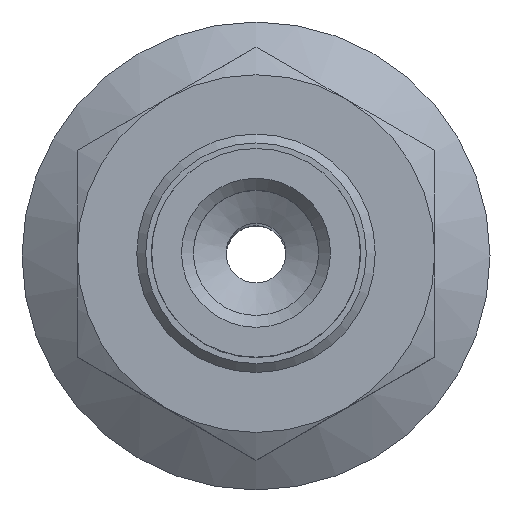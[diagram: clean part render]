
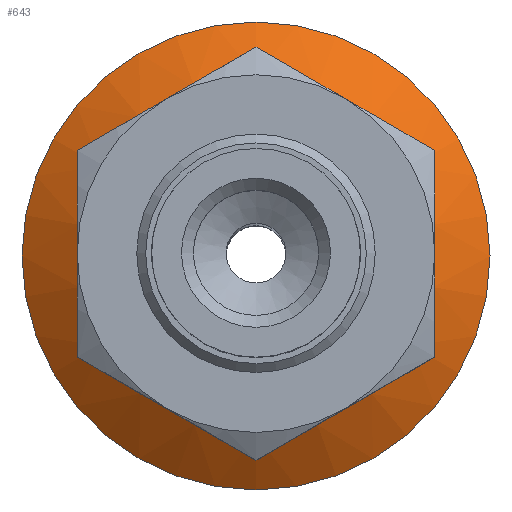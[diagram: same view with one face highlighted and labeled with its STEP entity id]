
A CAD part, top view. The second image highlights one B-rep face of the part: STEP entity #643.
In plain terms, the highlighted conical face has half-angle 55 degrees and reference radius 7.85 mm.
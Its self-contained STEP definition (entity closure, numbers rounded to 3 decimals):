
#643=ADVANCED_FACE('',(#959,#960),#961,.T.);
#959=FACE_BOUND('',#1308,.T.);
#960=FACE_OUTER_BOUND('',#1309,.T.);
#961=CONICAL_SURFACE('',#1310,7.85,0.96);
#1308=EDGE_LOOP('',(#2167));
#1309=EDGE_LOOP('',(#2168));
#1310=AXIS2_PLACEMENT_3D('',#2169,#2170,#2171);
#2167=ORIENTED_EDGE('',*,*,#2458,.T.);
#2168=ORIENTED_EDGE('',*,*,#2457,.F.);
#2169=CARTESIAN_POINT('',(0.0,6.196,0.0));
#2170=DIRECTION('',(-0.0,-1.0,0.));
#2171=DIRECTION('',(0.0,0.,-1.0));
#2457=EDGE_CURVE('',#2825,#2825,#2826,.T.);
#2458=EDGE_CURVE('',#2827,#2827,#2828,.T.);
#2825=VERTEX_POINT('',#3449);
#2826=CIRCLE('',#3450,7.85);
#2827=VERTEX_POINT('',#3451);
#2828=CIRCLE('',#3452,4.208);
#3449=CARTESIAN_POINT('',(0.0,6.196,-7.85));
#3450=AXIS2_PLACEMENT_3D('',#3813,#3814,#3815);
#3451=CARTESIAN_POINT('',(0.0,8.746,-4.208));
#3452=AXIS2_PLACEMENT_3D('',#3816,#3817,#3818);
#3813=CARTESIAN_POINT('',(0.0,6.196,0.0));
#3814=DIRECTION('',(0.0,-1.0,0.));
#3815=DIRECTION('',(0.0,0.,-1.0));
#3816=CARTESIAN_POINT('',(0.0,8.746,0.0));
#3817=DIRECTION('',(0.0,-1.0,0.));
#3818=DIRECTION('',(0.0,0.,-1.0));
